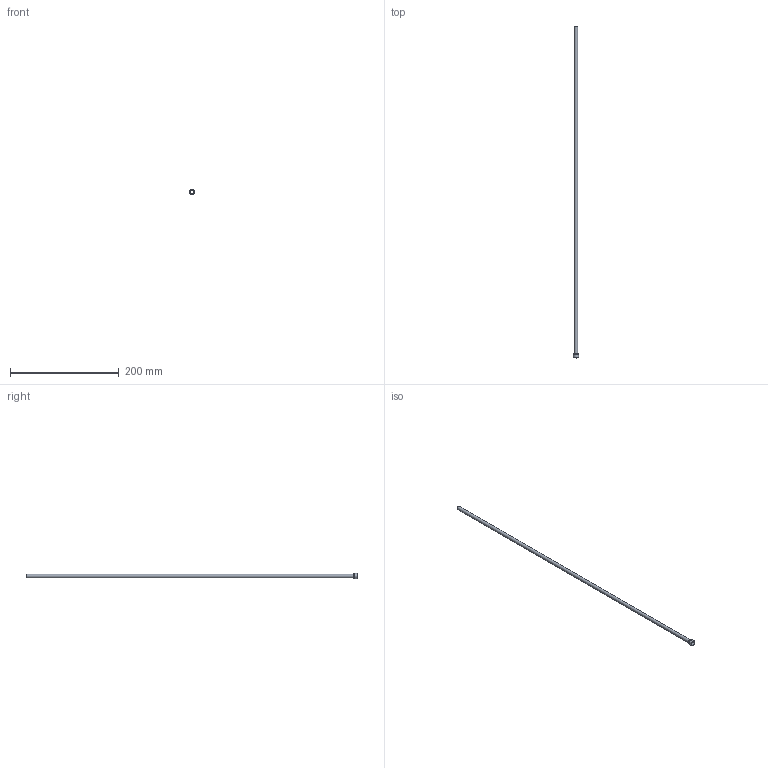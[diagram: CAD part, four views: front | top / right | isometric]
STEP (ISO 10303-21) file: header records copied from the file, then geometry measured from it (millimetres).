
FILE_DESCRIPTION(/* description */ (''),/* implementation_level */ '2;1');
FILE_NAME(/* name */ 'C:/Users/drich/Desktop/PT18-250-24 v1.step',/* time_stamp */ '2019-12-27T15:45:33-06:00',/* author */ (''),/* organization */ (''),/* preprocessor_version */ 'ST-DEVELOPER v18',/* originating_system */ 'Autodesk Translation Framework v8.12.0.6',/* authorisation */ '');
FILE_SCHEMA (('AUTOMOTIVE_DESIGN { 1 0 10303 214 3 1 1 }'));
Length unit declared in the file: inch
Products named in the file (1): PT18-250-24
Bounding box: 9.62 x 609.6 x 9.62 mm (x, y, z)
Volume: 3227.1 mm3; surface area: 23515.4 mm2
Topology: 1 solids, 1 shells, 19 faces, 48 edges, 34 vertices
Faces by surface type: plane 11, cylinder 4, torus 2, cone 2
Full cylindrical faces by diameter (mm): 5.842 x1, 6.35 x1, 7.925 x1, 9.621 x1
Entity records: 633 total; most frequent: DIRECTION 112, CARTESIAN_POINT 102, ORIENTED_EDGE 96, EDGE_CURVE 48, AXIS2_PLACEMENT_3D 44, VERTEX_POINT 34, CIRCLE 24, EDGE_LOOP 24
